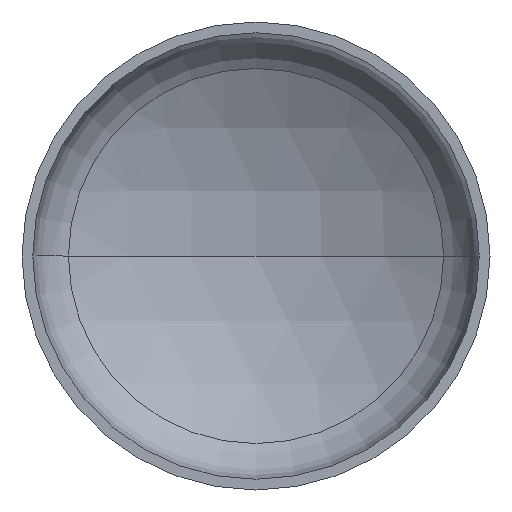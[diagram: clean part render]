
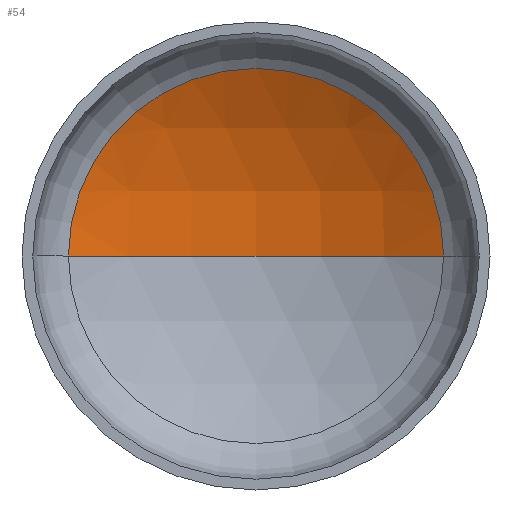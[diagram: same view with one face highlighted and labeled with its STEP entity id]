
A CAD part, front view. The second image highlights one B-rep face of the part: STEP entity #54.
In plain terms, the highlighted spherical face has radius 1360 mm.
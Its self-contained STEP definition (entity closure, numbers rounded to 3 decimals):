
#1 = AXIS2_PLACEMENT_3D ( 'NONE', #277, #368, #229 ) ;
#14 = AXIS2_PLACEMENT_3D ( 'NONE', #224, #392, #247 ) ;
#15 = AXIS2_PLACEMENT_3D ( 'NONE', #342, #192, #366 ) ;
#37 = ORIENTED_EDGE ( 'NONE', *, *, #333, .T. ) ;
#54 = ADVANCED_FACE ( 'NONE', ( #388 ), #96, .F. ) ;
#58 = AXIS2_PLACEMENT_3D ( 'NONE', #350, #210, #178 ) ;
#96 = SPHERICAL_SURFACE ( 'NONE', #58, 1360. ) ;
#114 = CIRCLE ( 'NONE', #15, 681.236 ) ;
#117 = CARTESIAN_POINT ( 'NONE',  ( -681.236, 345.03, 0. ) ) ;
#122 = ORIENTED_EDGE ( 'NONE', *, *, #380, .F. ) ;
#132 = VERTEX_POINT ( 'NONE', #353 ) ;
#152 = EDGE_LOOP ( 'NONE', ( #122, #37, #233 ) ) ;
#171 = VERTEX_POINT ( 'NONE', #117 ) ;
#178 = DIRECTION ( 'NONE',  ( -1., 0., 0. ) ) ;
#192 = DIRECTION ( 'NONE',  ( 0., -1., 0. ) ) ;
#210 = DIRECTION ( 'NONE',  ( 0., 0., -1. ) ) ;
#212 = VERTEX_POINT ( 'NONE', #363 ) ;
#224 = CARTESIAN_POINT ( 'NONE',  ( 0., -832.05, 0. ) ) ;
#229 = DIRECTION ( 'NONE',  ( 1., 0., 0. ) ) ;
#233 = ORIENTED_EDGE ( 'NONE', *, *, #332, .T. ) ;
#247 = DIRECTION ( 'NONE',  ( -1., 0., 0. ) ) ;
#269 = CIRCLE ( 'NONE', #14, 1360. ) ;
#277 = CARTESIAN_POINT ( 'NONE',  ( 0., -832.05, 0. ) ) ;
#332 = EDGE_CURVE ( 'NONE', #132, #171, #114, .T. ) ;
#333 = EDGE_CURVE ( 'NONE', #212, #132, #269, .T. ) ;
#342 = CARTESIAN_POINT ( 'NONE',  ( 0., 345.03, 0. ) ) ;
#350 = CARTESIAN_POINT ( 'NONE',  ( 0., -832.05, 0. ) ) ;
#353 = CARTESIAN_POINT ( 'NONE',  ( 681.236, 345.03, 0. ) ) ;
#363 = CARTESIAN_POINT ( 'NONE',  ( 0., 527.95, 0. ) ) ;
#366 = DIRECTION ( 'NONE',  ( 1., 0., 0. ) ) ;
#368 = DIRECTION ( 'NONE',  ( 0., 0., 1. ) ) ;
#374 = CIRCLE ( 'NONE', #1, 1360. ) ;
#380 = EDGE_CURVE ( 'NONE', #212, #171, #374, .T. ) ;
#388 = FACE_OUTER_BOUND ( 'NONE', #152, .T. ) ;
#392 = DIRECTION ( 'NONE',  ( 0., 0., -1. ) ) ;
